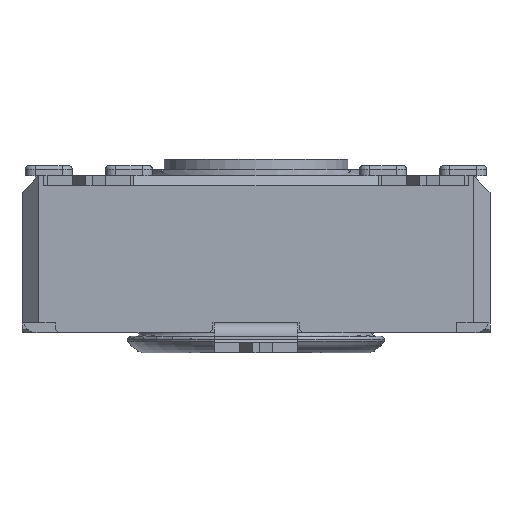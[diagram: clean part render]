
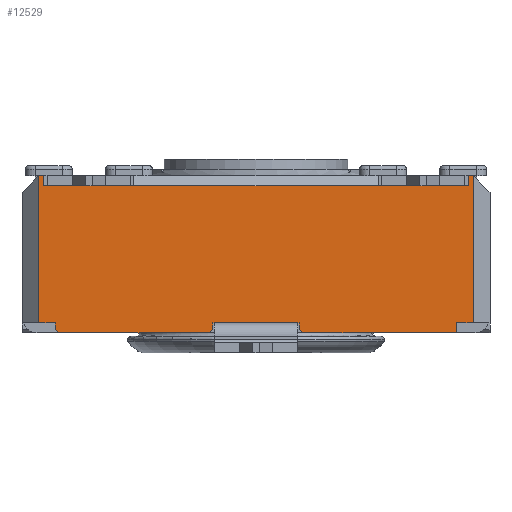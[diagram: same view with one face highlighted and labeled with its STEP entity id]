
A CAD part, front view. The second image highlights one B-rep face of the part: STEP entity #12529.
In plain terms, the highlighted planar face has unit normal (0, -1, 0).
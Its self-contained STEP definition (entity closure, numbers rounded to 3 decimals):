
#648=FACE_OUTER_BOUND('',#1316,.T.);
#1316=EDGE_LOOP('',(#8321,#8322,#8323,#8324,#8325,#8326,#8327,#8328,#8329,
#8330,#8331,#8332,#8333,#8334,#8335,#8336,#8337,#8338,#8339,#8340,#8341,
#8342,#8343,#8344,#8345,#8346,#8347));
#2001=LINE('',#17806,#3486);
#2014=LINE('',#17840,#3499);
#2019=LINE('',#17850,#3504);
#2097=LINE('',#18011,#3582);
#2122=LINE('',#18062,#3607);
#2148=LINE('',#18126,#3633);
#2149=LINE('',#18128,#3634);
#2150=LINE('',#18130,#3635);
#2151=LINE('',#18131,#3636);
#2152=LINE('',#18133,#3637);
#2153=LINE('',#18135,#3638);
#2154=LINE('',#18137,#3639);
#2155=LINE('',#18139,#3640);
#2156=LINE('',#18140,#3641);
#2157=LINE('',#18142,#3642);
#2158=LINE('',#18144,#3643);
#2159=LINE('',#18146,#3644);
#2160=LINE('',#18148,#3645);
#2161=LINE('',#18150,#3646);
#2162=LINE('',#18152,#3647);
#2163=LINE('',#18154,#3648);
#2164=LINE('',#18156,#3649);
#2165=LINE('',#18158,#3650);
#2166=LINE('',#18159,#3651);
#2167=LINE('',#18161,#3652);
#2168=LINE('',#18163,#3653);
#2169=LINE('',#18164,#3654);
#3486=VECTOR('',#14280,10.);
#3499=VECTOR('',#14319,10.);
#3504=VECTOR('',#14324,10.);
#3582=VECTOR('',#14428,10.);
#3607=VECTOR('',#14469,10.);
#3633=VECTOR('',#14517,10.);
#3634=VECTOR('',#14518,10.);
#3635=VECTOR('',#14519,10.);
#3636=VECTOR('',#14520,10.);
#3637=VECTOR('',#14521,10.);
#3638=VECTOR('',#14522,10.);
#3639=VECTOR('',#14523,10.);
#3640=VECTOR('',#14524,10.);
#3641=VECTOR('',#14525,10.);
#3642=VECTOR('',#14526,10.);
#3643=VECTOR('',#14527,10.);
#3644=VECTOR('',#14528,10.);
#3645=VECTOR('',#14529,10.);
#3646=VECTOR('',#14530,10.);
#3647=VECTOR('',#14531,10.);
#3648=VECTOR('',#14532,10.);
#3649=VECTOR('',#14533,10.);
#3650=VECTOR('',#14534,10.);
#3651=VECTOR('',#14535,10.);
#3652=VECTOR('',#14536,10.);
#3653=VECTOR('',#14537,10.);
#3654=VECTOR('',#14538,10.);
#4956=VERTEX_POINT('',#17784);
#4964=VERTEX_POINT('',#17805);
#4972=VERTEX_POINT('',#17839);
#4976=VERTEX_POINT('',#17847);
#4977=VERTEX_POINT('',#17849);
#5046=VERTEX_POINT('',#18008);
#5047=VERTEX_POINT('',#18010);
#5064=VERTEX_POINT('',#18059);
#5065=VERTEX_POINT('',#18061);
#5092=VERTEX_POINT('',#18125);
#5093=VERTEX_POINT('',#18127);
#5094=VERTEX_POINT('',#18129);
#5095=VERTEX_POINT('',#18132);
#5096=VERTEX_POINT('',#18134);
#5097=VERTEX_POINT('',#18136);
#5098=VERTEX_POINT('',#18138);
#5099=VERTEX_POINT('',#18141);
#5100=VERTEX_POINT('',#18143);
#5101=VERTEX_POINT('',#18145);
#5102=VERTEX_POINT('',#18147);
#5103=VERTEX_POINT('',#18149);
#5104=VERTEX_POINT('',#18151);
#5105=VERTEX_POINT('',#18153);
#5106=VERTEX_POINT('',#18155);
#5107=VERTEX_POINT('',#18157);
#5108=VERTEX_POINT('',#18160);
#5109=VERTEX_POINT('',#18162);
#6190=EDGE_CURVE('',#4956,#4964,#2001,.T.);
#6207=EDGE_CURVE('',#4972,#4956,#2014,.T.);
#6212=EDGE_CURVE('',#4977,#4976,#2019,.T.);
#6292=EDGE_CURVE('',#5047,#5046,#2097,.T.);
#6317=EDGE_CURVE('',#5065,#5064,#2122,.T.);
#6349=EDGE_CURVE('',#5046,#5092,#2148,.T.);
#6350=EDGE_CURVE('',#5092,#5093,#2149,.T.);
#6351=EDGE_CURVE('',#5093,#5094,#2150,.T.);
#6352=EDGE_CURVE('',#4977,#5094,#2151,.T.);
#6353=EDGE_CURVE('',#4976,#5095,#2152,.T.);
#6354=EDGE_CURVE('',#5096,#5095,#2153,.T.);
#6355=EDGE_CURVE('',#5096,#5097,#2154,.T.);
#6356=EDGE_CURVE('',#5098,#5097,#2155,.T.);
#6357=EDGE_CURVE('',#4972,#5098,#2156,.T.);
#6358=EDGE_CURVE('',#4964,#5099,#2157,.T.);
#6359=EDGE_CURVE('',#5099,#5100,#2158,.T.);
#6360=EDGE_CURVE('',#5101,#5100,#2159,.T.);
#6361=EDGE_CURVE('',#5101,#5102,#2160,.T.);
#6362=EDGE_CURVE('',#5102,#5103,#2161,.T.);
#6363=EDGE_CURVE('',#5103,#5104,#2162,.T.);
#6364=EDGE_CURVE('',#5105,#5104,#2163,.T.);
#6365=EDGE_CURVE('',#5105,#5106,#2164,.T.);
#6366=EDGE_CURVE('',#5106,#5107,#2165,.T.);
#6367=EDGE_CURVE('',#5107,#5065,#2166,.T.);
#6368=EDGE_CURVE('',#5064,#5108,#2167,.T.);
#6369=EDGE_CURVE('',#5109,#5108,#2168,.T.);
#6370=EDGE_CURVE('',#5109,#5047,#2169,.T.);
#8321=ORIENTED_EDGE('',*,*,#6292,.T.);
#8322=ORIENTED_EDGE('',*,*,#6349,.T.);
#8323=ORIENTED_EDGE('',*,*,#6350,.T.);
#8324=ORIENTED_EDGE('',*,*,#6351,.T.);
#8325=ORIENTED_EDGE('',*,*,#6352,.F.);
#8326=ORIENTED_EDGE('',*,*,#6212,.T.);
#8327=ORIENTED_EDGE('',*,*,#6353,.T.);
#8328=ORIENTED_EDGE('',*,*,#6354,.F.);
#8329=ORIENTED_EDGE('',*,*,#6355,.T.);
#8330=ORIENTED_EDGE('',*,*,#6356,.F.);
#8331=ORIENTED_EDGE('',*,*,#6357,.F.);
#8332=ORIENTED_EDGE('',*,*,#6207,.T.);
#8333=ORIENTED_EDGE('',*,*,#6190,.T.);
#8334=ORIENTED_EDGE('',*,*,#6358,.T.);
#8335=ORIENTED_EDGE('',*,*,#6359,.T.);
#8336=ORIENTED_EDGE('',*,*,#6360,.F.);
#8337=ORIENTED_EDGE('',*,*,#6361,.T.);
#8338=ORIENTED_EDGE('',*,*,#6362,.T.);
#8339=ORIENTED_EDGE('',*,*,#6363,.T.);
#8340=ORIENTED_EDGE('',*,*,#6364,.F.);
#8341=ORIENTED_EDGE('',*,*,#6365,.T.);
#8342=ORIENTED_EDGE('',*,*,#6366,.T.);
#8343=ORIENTED_EDGE('',*,*,#6367,.T.);
#8344=ORIENTED_EDGE('',*,*,#6317,.T.);
#8345=ORIENTED_EDGE('',*,*,#6368,.T.);
#8346=ORIENTED_EDGE('',*,*,#6369,.F.);
#8347=ORIENTED_EDGE('',*,*,#6370,.T.);
#11817=PLANE('',#13236);
#12529=ADVANCED_FACE('',(#648),#11817,.T.);
#13236=AXIS2_PLACEMENT_3D('',#18124,#14515,#14516);
#14280=DIRECTION('',(1.,0.,0.));
#14319=DIRECTION('',(1.,0.,0.));
#14324=DIRECTION('',(1.,0.,0.));
#14428=DIRECTION('',(-1.,0.,0.));
#14469=DIRECTION('',(-1.,0.,0.));
#14515=DIRECTION('center_axis',(0.,-1.,0.));
#14516=DIRECTION('ref_axis',(0.,0.,-1.));
#14517=DIRECTION('',(-1.,0.,0.));
#14518=DIRECTION('',(0.,0.,1.));
#14519=DIRECTION('',(-1.,0.,0.));
#14520=DIRECTION('',(0.,0.,1.));
#14521=DIRECTION('',(0.,0.,-1.));
#14522=DIRECTION('',(-0.707,0.,0.707));
#14523=DIRECTION('',(1.,0.,0.));
#14524=DIRECTION('',(-0.707,0.,-0.707));
#14525=DIRECTION('',(0.,0.,-1.));
#14526=DIRECTION('',(1.,0.,0.));
#14527=DIRECTION('',(0.,0.,-1.));
#14528=DIRECTION('',(-0.707,0.,0.707));
#14529=DIRECTION('',(1.,0.,0.));
#14530=DIRECTION('',(0.,0.,1.));
#14531=DIRECTION('',(1.,0.,0.));
#14532=DIRECTION('',(0.,0.,-1.));
#14533=DIRECTION('',(-1.,0.,0.));
#14534=DIRECTION('',(0.,0.,-1.));
#14535=DIRECTION('',(-1.,0.,0.));
#14536=DIRECTION('',(-1.,0.,0.));
#14537=DIRECTION('',(1.,0.,0.));
#14538=DIRECTION('',(-1.,0.,0.));
#17784=CARTESIAN_POINT('',(-8.717,-9.898,0.));
#17805=CARTESIAN_POINT('',(-6.217,-9.898,0.));
#17806=CARTESIAN_POINT('',(-14.467,-9.898,0.));
#17839=CARTESIAN_POINT('',(-8.767,-9.898,0.));
#17840=CARTESIAN_POINT('',(-14.467,-9.898,0.));
#17847=CARTESIAN_POINT('',(-13.467,-9.898,0.));
#17849=CARTESIAN_POINT('',(-13.967,-9.898,0.));
#17850=CARTESIAN_POINT('',(-7.245,-9.898,0.));
#18008=CARTESIAN_POINT('',(-13.717,-9.898,4.1));
#18010=CARTESIAN_POINT('',(-11.217,-9.898,4.1));
#18011=CARTESIAN_POINT('',(-6.467,-9.898,4.1));
#18059=CARTESIAN_POINT('',(-3.717,-9.898,4.1));
#18061=CARTESIAN_POINT('',(-1.217,-9.898,4.1));
#18062=CARTESIAN_POINT('',(-1.467,-9.898,4.1));
#18124=CARTESIAN_POINT('Origin',(-0.467,-9.898,0.));
#18125=CARTESIAN_POINT('',(-13.817,-9.898,4.1));
#18126=CARTESIAN_POINT('',(-3.944,-9.898,4.1));
#18127=CARTESIAN_POINT('',(-13.817,-9.898,4.4));
#18128=CARTESIAN_POINT('',(-13.817,-9.898,2.2));
#18129=CARTESIAN_POINT('',(-13.967,-9.898,4.4));
#18130=CARTESIAN_POINT('',(-14.467,-9.898,4.4));
#18131=CARTESIAN_POINT('',(-13.967,-9.898,0.));
#18132=CARTESIAN_POINT('',(-13.467,-9.898,-0.2));
#18133=CARTESIAN_POINT('',(-13.467,-9.898,-0.15));
#18134=CARTESIAN_POINT('',(-13.367,-9.898,-0.3));
#18135=CARTESIAN_POINT('',(-10.242,-9.898,-3.425));
#18136=CARTESIAN_POINT('',(-8.867,-9.898,-0.3));
#18137=CARTESIAN_POINT('',(-0.467,-9.898,-0.3));
#18138=CARTESIAN_POINT('',(-8.767,-9.898,-0.2));
#18139=CARTESIAN_POINT('',(-6.667,-9.898,1.9));
#18140=CARTESIAN_POINT('',(-8.767,-9.898,0.));
#18141=CARTESIAN_POINT('',(-6.167,-9.898,0.));
#18142=CARTESIAN_POINT('',(-14.467,-9.898,0.));
#18143=CARTESIAN_POINT('',(-6.167,-9.898,-0.2));
#18144=CARTESIAN_POINT('',(-6.167,-9.898,0.));
#18145=CARTESIAN_POINT('',(-6.067,-9.898,-0.3));
#18146=CARTESIAN_POINT('',(-4.767,-9.898,-1.6));
#18147=CARTESIAN_POINT('',(-1.467,-9.898,-0.3));
#18148=CARTESIAN_POINT('',(-0.467,-9.898,-0.3));
#18149=CARTESIAN_POINT('',(-1.467,-9.898,0.));
#18150=CARTESIAN_POINT('',(-1.467,-9.898,-0.15));
#18151=CARTESIAN_POINT('',(-0.967,-9.898,0.));
#18152=CARTESIAN_POINT('',(-0.646,-9.898,0.));
#18153=CARTESIAN_POINT('',(-0.967,-9.898,4.4));
#18154=CARTESIAN_POINT('',(-0.967,-9.898,0.));
#18155=CARTESIAN_POINT('',(-1.117,-9.898,4.4));
#18156=CARTESIAN_POINT('',(-14.467,-9.898,4.4));
#18157=CARTESIAN_POINT('',(-1.117,-9.898,4.1));
#18158=CARTESIAN_POINT('',(-1.117,-9.898,2.2));
#18159=CARTESIAN_POINT('',(-1.862,-9.898,4.1));
#18160=CARTESIAN_POINT('',(-3.817,-9.898,4.1));
#18161=CARTESIAN_POINT('',(-1.862,-9.898,4.1));
#18162=CARTESIAN_POINT('',(-11.117,-9.898,4.1));
#18163=CARTESIAN_POINT('',(-3.967,-9.898,4.1));
#18164=CARTESIAN_POINT('',(-3.944,-9.898,4.1));
